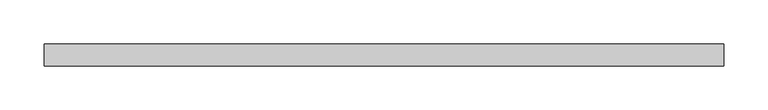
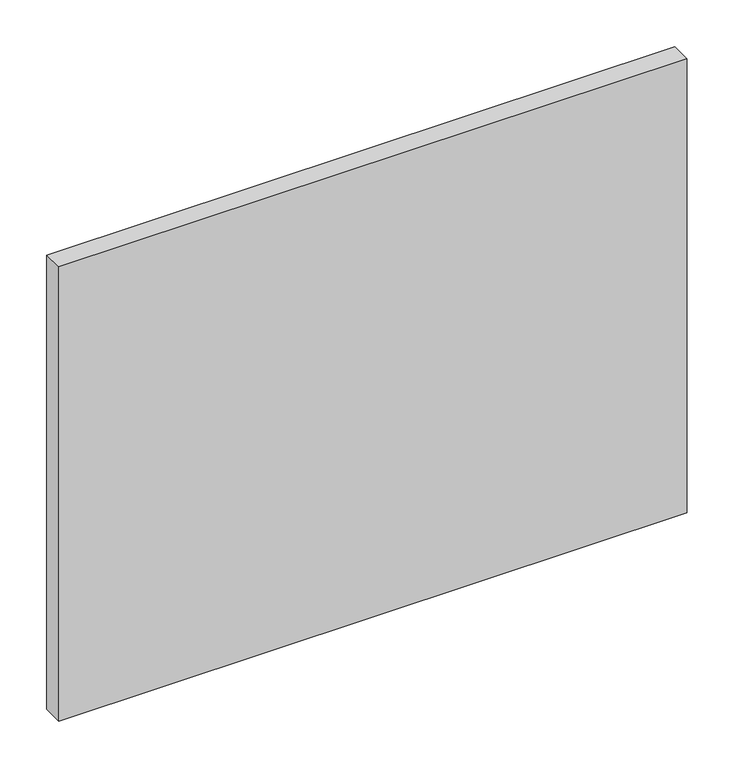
"""IFC4 building model written with IfcOpenShell, lengths in millimetres: plate geometry, 系统嵌板 : 玻璃."""

from ifc_helpers import new_model, si_unit, origin, origin_with_axes, place, context, project, spatial, polyline, outline, extrude, source, transform, mapped, element, save


def plate_61ec28ac(model_context):
    return source(origin(), model_context, "Body", "SweptSolid", [
        extrude(outline(polyline([(385.9482126, -12.5), (-385.9482126, -12.5), (-385.9482126, 12.5), (385.9482126, 12.5), (385.9482126, -12.5)])), origin_with_axes(), (0.0, 0.0, 1.0), 590.0),
    ])


if __name__ == "__main__":
    model = new_model("IFC4")
    model_context = context("Model", 3, world=origin())
    ifc_project = project(units=[si_unit("LENGTHUNIT", "METRE", prefix="MILLI")], contexts=[model_context])
    site = spatial("IfcSite", under=ifc_project)
    building = spatial("IfcBuilding", under=site)
    placement = place(None, origin())
    plate_shape = plate_61ec28ac(model_context)
    element("IfcPlate", 1, ObjectType="系统嵌板 : 玻璃", at=placement, inside=building, context=model_context, shape_type="MappedRepresentation", body=[
        mapped(plate_shape, transform((0.0, 0.0, 0.0), x_axis=(1.0, 0.0, 0.0), y_axis=(0.0, 1.0, 0.0), z_axis=(0.0, 0.0, 1.0))),
    ])
    save(model, "model.ifc")
